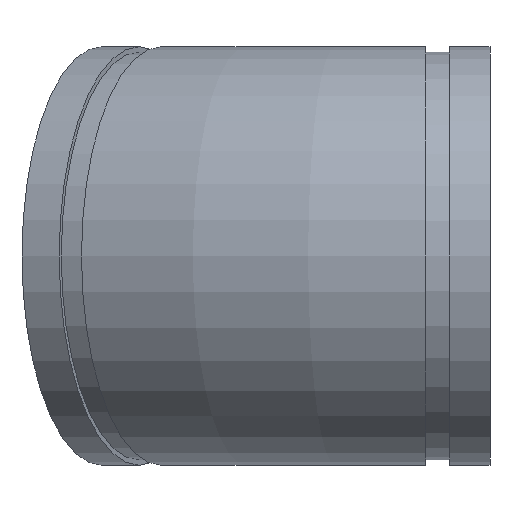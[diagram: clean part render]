
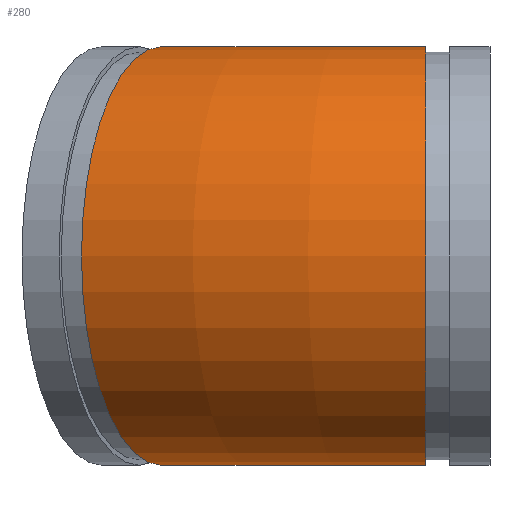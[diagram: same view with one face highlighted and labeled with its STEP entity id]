
A CAD part, left-side view. The second image highlights one B-rep face of the part: STEP entity #280.
In plain terms, the highlighted toroidal (fillet/blend) face has major radius 271.989 mm and minor radius 82.55 mm.
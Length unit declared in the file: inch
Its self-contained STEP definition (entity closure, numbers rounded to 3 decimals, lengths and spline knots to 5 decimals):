
#46=TOROIDAL_SURFACE('',#335,10.70823,3.25);
#78=FACE_OUTER_BOUND('',#96,.T.);
#96=EDGE_LOOP('',(#221,#222,#223,#224,#225,#226));
#105=CIRCLE('',#308,3.25);
#106=CIRCLE('',#309,3.25);
#116=CIRCLE('',#323,3.25);
#117=CIRCLE('',#324,3.25);
#126=CIRCLE('',#336,7.45823);
#131=VERTEX_POINT('',#476);
#132=VERTEX_POINT('',#477);
#142=VERTEX_POINT('',#504);
#143=VERTEX_POINT('',#505);
#155=EDGE_CURVE('',#131,#132,#105,.T.);
#156=EDGE_CURVE('',#132,#131,#106,.T.);
#168=EDGE_CURVE('',#142,#143,#116,.T.);
#169=EDGE_CURVE('',#143,#142,#117,.T.);
#178=EDGE_CURVE('',#132,#143,#126,.T.);
#221=ORIENTED_EDGE('',*,*,#155,.T.);
#222=ORIENTED_EDGE('',*,*,#178,.T.);
#223=ORIENTED_EDGE('',*,*,#169,.T.);
#224=ORIENTED_EDGE('',*,*,#168,.T.);
#225=ORIENTED_EDGE('',*,*,#178,.F.);
#226=ORIENTED_EDGE('',*,*,#156,.T.);
#280=ADVANCED_FACE('',(#78),#46,.T.);
#308=AXIS2_PLACEMENT_3D('',#478,#364,#365);
#309=AXIS2_PLACEMENT_3D('',#479,#366,#367);
#323=AXIS2_PLACEMENT_3D('',#506,#396,#397);
#324=AXIS2_PLACEMENT_3D('',#507,#398,#399);
#335=AXIS2_PLACEMENT_3D('',#525,#420,#421);
#336=AXIS2_PLACEMENT_3D('',#526,#422,#423);
#364=DIRECTION('center_axis',(-0.383,-0.924,0.));
#365=DIRECTION('ref_axis',(0.924,-0.383,0.));
#366=DIRECTION('center_axis',(-0.383,-0.924,0.));
#367=DIRECTION('ref_axis',(0.924,-0.383,0.));
#396=DIRECTION('center_axis',(0.,1.,0.));
#397=DIRECTION('ref_axis',(1.,0.,0.));
#398=DIRECTION('center_axis',(0.,1.,0.));
#399=DIRECTION('ref_axis',(1.,0.,0.));
#420=DIRECTION('center_axis',(0.,0.,-1.));
#421=DIRECTION('ref_axis',(-1.,0.,0.));
#422=DIRECTION('center_axis',(0.,0.,1.));
#423=DIRECTION('ref_axis',(-1.,0.,0.));
#476=CARTESIAN_POINT('',(0.81512,5.09786,3.25));
#477=CARTESIAN_POINT('',(3.81772,3.85414,0.));
#478=CARTESIAN_POINT('Origin',(0.81512,5.09786,0.));
#479=CARTESIAN_POINT('Origin',(0.81512,5.09786,0.));
#504=CARTESIAN_POINT('',(0.,1.,3.25));
#505=CARTESIAN_POINT('',(3.25,1.,0.));
#506=CARTESIAN_POINT('Origin',(0.,1.,0.));
#507=CARTESIAN_POINT('Origin',(0.,1.,0.));
#525=CARTESIAN_POINT('Origin',(10.70823,1.,0.));
#526=CARTESIAN_POINT('Origin',(10.70823,1.,0.));
